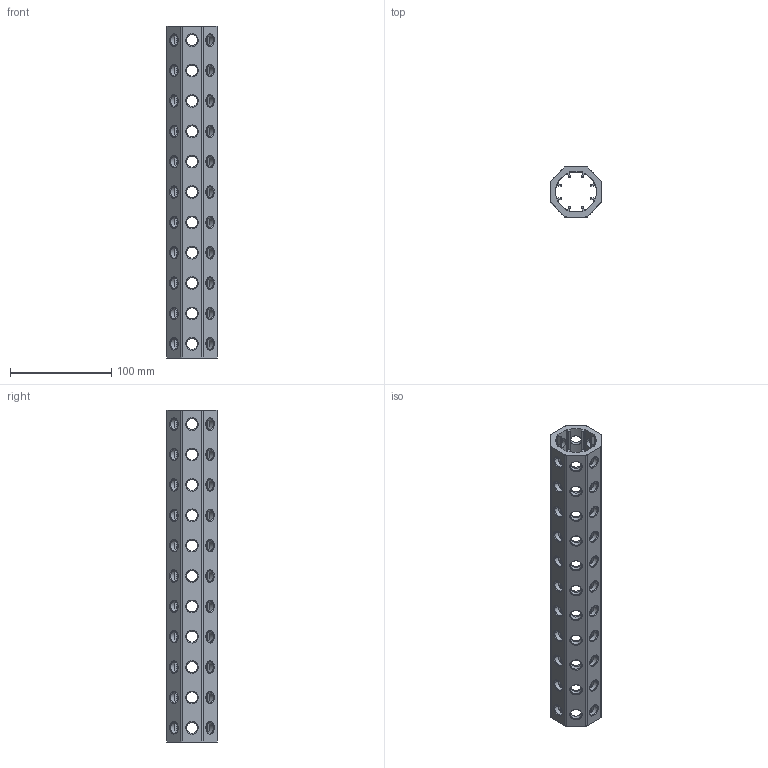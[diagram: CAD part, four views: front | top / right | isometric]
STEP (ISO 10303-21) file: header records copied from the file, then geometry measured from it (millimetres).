
FILE_DESCRIPTION(('CATIA V5 STEP Exchange'),'2;1');
FILE_NAME('U:\Room\唐宝山\EGT002\46-01-010240-01-EGT002-328.stp','2021-08-24T00:59:05+00:00',('none'),('none'),'CATIA Version 5 Release 21 GA (IN-10)','CATIA V5 STEP AP203','none');
FILE_SCHEMA(('CONFIG_CONTROL_DESIGN'));
Length unit declared in the file: millimetre
Products named in the file (1): 46-01-010240-01-EGT002-328
Bounding box: 50 x 50 x 328 mm (x, y, z)
Volume: 233480.6 mm3; surface area: 114069.5 mm2
Topology: 1 solids, 1 shells, 524 faces, 1456 edges, 912 vertices
Faces by surface type: cone 264, cylinder 234, plane 26
Entity records: 21330 total; most frequent: CARTESIAN_POINT 8561, ORIENTED_EDGE 2912, DIRECTION 2050, EDGE_CURVE 1456, AXIS2_PLACEMENT_3D 935, VERTEX_POINT 912, EDGE_LOOP 680, VECTOR 592
